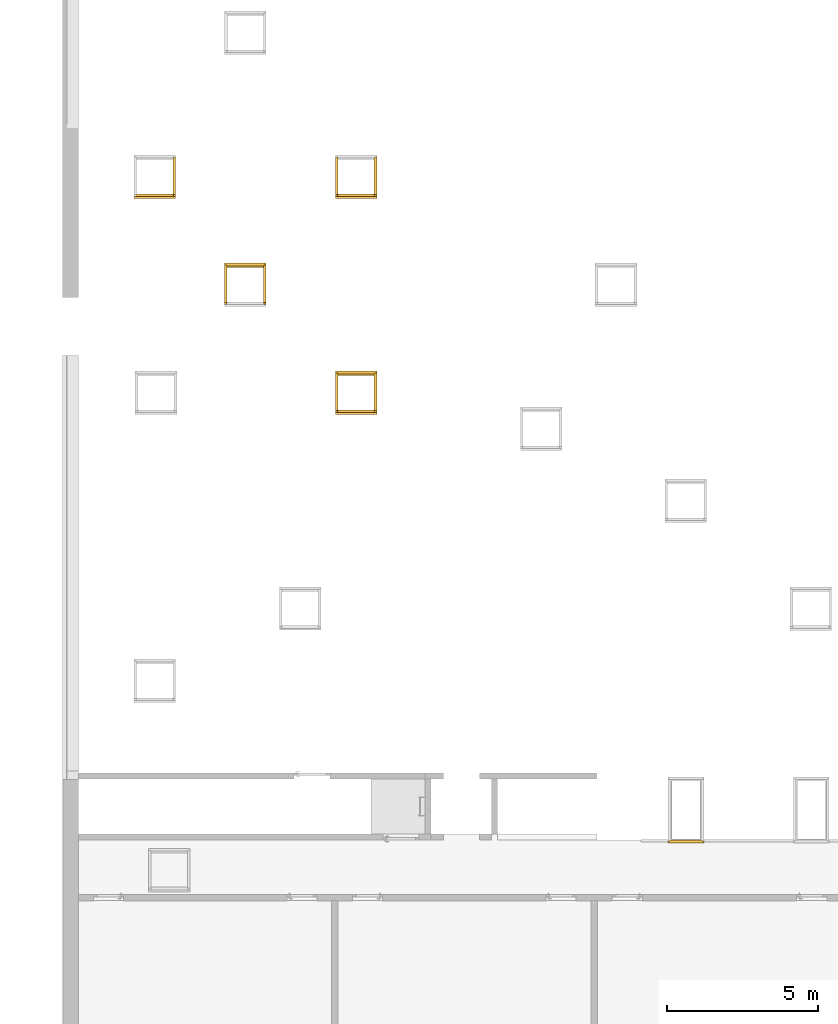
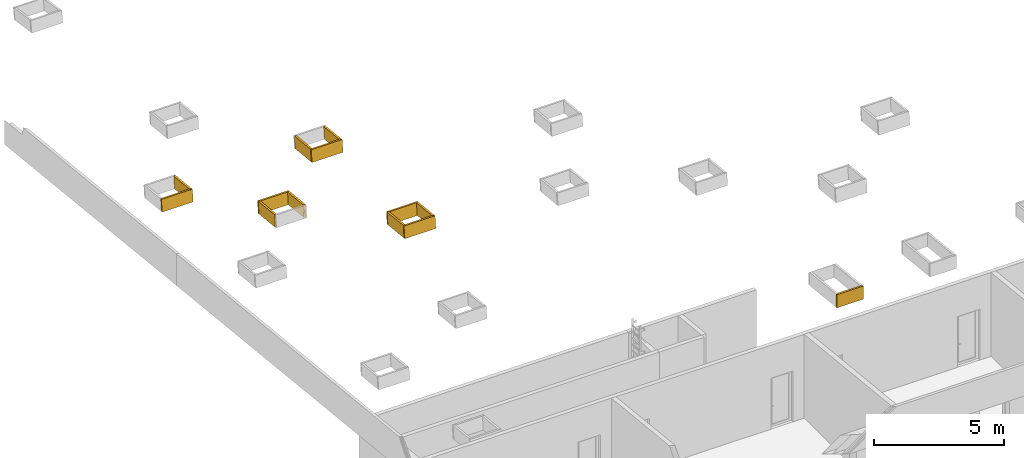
# One storey, part 13 of 23: 13 coverings.
"""IFC2X3 building model written with IfcOpenShell, lengths in millimetres."""

from ifc_helpers import new_model, entity, si_unit, converted_unit, derived_unit, money_unit, direction, frame, origin_with_axes, place, context, subcontext, project, spatial, faceted_brep, material, material_list, type_object, element, save


model = new_model("IFC2X3")

# Units and contexts
model_context = context("Model", 3, precision=0.01, world=origin_with_axes(), true_north=direction((0.0, 1.0)))
body_context = subcontext(model_context, "Body", "Model", "MODEL_VIEW")
ifc_project = project(units=[si_unit("LENGTHUNIT", "METRE", prefix="MILLI"), si_unit("AREAUNIT", "SQUARE_METRE"), si_unit("VOLUMEUNIT", "CUBIC_METRE"), converted_unit("PLANEANGLEUNIT", "DEGREE", entity("IfcPlaneAngleMeasure", 0.0174532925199), si_unit("PLANEANGLEUNIT", "RADIAN"), dimensions=[0, 0, 0, 0, 0, 0, 0]), si_unit("SOLIDANGLEUNIT", "STERADIAN"), money_unit("EUR"), converted_unit("TIMEUNIT", "Year", entity("IfcTimeMeasure", 31556926.0), si_unit("TIMEUNIT", "SECOND"), dimensions=[0, 0, 1, 0, 0, 0, 0]), si_unit("MASSUNIT", "GRAM", prefix="KILO"), si_unit("THERMODYNAMICTEMPERATUREUNIT", "DEGREE_CELSIUS"), si_unit("LUMINOUSINTENSITYUNIT", "LUMEN"), si_unit("ENERGYUNIT", "JOULE", prefix="MEGA"), derived_unit("THERMALCONDUCTANCEUNIT", [(si_unit("POWERUNIT", "WATT"), 1), (si_unit("LENGTHUNIT", "METRE"), -1), (si_unit("THERMODYNAMICTEMPERATUREUNIT", "KELVIN"), -1)]), derived_unit("SPECIFICHEATCAPACITYUNIT", [(si_unit("ENERGYUNIT", "JOULE"), 1), (si_unit("MASSUNIT", "GRAM", prefix="KILO"), -1), (si_unit("THERMODYNAMICTEMPERATUREUNIT", "KELVIN"), -1)]), derived_unit("MASSDENSITYUNIT", [(si_unit("MASSUNIT", "GRAM", prefix="KILO"), 1), (si_unit("VOLUMEUNIT", "CUBIC_METRE"), -1)])], contexts=[model_context])

# Site, building, storey
site_placement = place(None, origin_with_axes())
site = spatial("IfcSite", under=ifc_project, at=site_placement, Name="L.Koidula tn 11b", CompositionType="ELEMENT")
building_placement = place(site_placement, origin_with_axes())
building = spatial("IfcBuilding", under=site, at=building_placement, Name="Rakvere Riigigümnaasium", CompositionType="ELEMENT")
storey_placement = place(building_placement, frame((0.0, 0.0, 7440.0), z_axis=(0.0, 0.0, 1.0), x_axis=(1.0, 0.0, 0.0)))
storey = spatial("IfcBuildingStorey", under=building, at=storey_placement, Name="3.korrus +7,44", CompositionType="ELEMENT", Elevation=7440.0)

# Coverings
ifc_material_1 = material(Name="SKR-02_Kipsplaat")
ifc_material_2 = material(Name="mineraalvill+karkass")
ifc_material_list_1 = material_list([ifc_material_1, ifc_material_1, ifc_material_2])
covering_type = type_object("IfcCoveringType", Name="SA-2xkips 91", PredefinedType="NOTDEFINED")
covering_1_placement = place(storey_placement, frame((55149.7548015, 15090.4785302, 3113.51090333), z_axis=(0.0, 0.0, 1.0), x_axis=(1.0, 0.0, 0.0)))
element("IfcCovering", 1, at=covering_1_placement, inside=storey, type_object=covering_type, material=ifc_material_list_1, Name="Ava-pinnakate", PredefinedType="NOTDEFINED", context=body_context, shape_type="Brep", body=[
    faceted_brep([(-12.5000001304, 0.0, 624.674586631), (1012.5027187, 0.0, 624.674586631), (1012.5027187, 0.0, 0.0), (-12.5000001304, 0.0, 0.0), (1012.50092998, -12.5, 625.988389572), (-12.5018058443, -12.5, 625.988389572), (1012.50092998, -12.5, 1.1134172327), (1012.50244587, -1.90654265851, 0.0), (-12.5002755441, -1.90654265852, 0.0), (-12.5018058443, -12.5, 1.1134172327)], [[[0, 1, 2, 3]], [[4, 1, 0, 5]], [[1, 4, 6, 7, 2]], [[3, 2, 7, 8]], [[5, 0, 3, 8, 9]], [[4, 5, 9, 6]], [[6, 9, 8, 7]]]),
    faceted_brep([(-25.0018059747, -12.5, 625.988389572), (1025.0009301, -12.5, 625.988389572), (1025.0009301, -12.5, 1.1134172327), (-25.0018059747, -12.5, 1.1134172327), (1024.99979842, -20.4084827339, 626.819604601), (-25.0029484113, -20.408482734, 626.819604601), (0.0, -20.4084827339, 626.819604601), (0.0, -25.0, 627.302192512), (1000.00271857, -25.0, 627.302192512), (1000.00271857, -20.4084827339, 626.819604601), (1024.99914138, -25.0, 626.819604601), (1024.99914138, -25.0, 2.42722017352), (-25.0036116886, -25.0, 2.42722017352), (-25.0036116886, -25.0, 626.819604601), (0.0, -25.0, 626.819604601), (1000.00271857, -25.0, 626.819604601)], [[[0, 1, 2, 3]], [[4, 1, 0, 5, 6, 7, 8, 9]], [[1, 4, 10, 11, 2]], [[11, 12, 3, 2]], [[5, 0, 3, 12, 13]], [[6, 5, 13, 14]], [[7, 6, 14]], [[8, 7, 14, 13, 12, 11, 10, 15]], [[9, 8, 15]], [[4, 9, 15, 10]]]),
    faceted_brep([(0.0, -25.0, 627.302192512), (1000.00271857, -25.0, 627.302192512), (1000.00271857, -25.0, 626.819604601), (1090.99914421, -25.0, 626.819604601), (1090.99914421, -25.0, 2.42722017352), (-91.0036123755, -25.0, 2.42722017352), (-91.0036123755, -25.0, 626.819604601), (0.0, -25.0, 626.819604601), (1000.00271857, -88.6128973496, 633.988177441), (0.0, -88.6128973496, 633.988177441), (1000.00271857, -91.0, 633.988177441), (1000.00271857, -91.0, 626.819604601), (1090.98969976, -91.0, 626.819604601), (1090.98969976, -91.0, 9.36409970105), (-91.0131465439, -91.0, 9.36409970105), (-91.0131465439, -91.0, 626.819604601), (0.0, -91.0, 626.819604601), (0.0, -91.0, 633.988177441)], [[[0, 1, 2, 3, 4, 5, 6, 7]], [[8, 1, 0, 9]], [[1, 8, 10, 11, 2]], [[3, 2, 11, 12]], [[3, 12, 13, 4]], [[13, 14, 5, 4]], [[15, 6, 5, 14]], [[15, 16, 7, 6]], [[9, 0, 7, 16, 17]], [[8, 9, 17, 10]], [[16, 15, 14, 13, 12, 11, 10, 17]]]),
])
covering_2_placement = place(storey_placement, frame((45308.8698549, 30494.0144713, 1485.50385412), z_axis=(0.0, 0.0, 1.0), x_axis=(-1.0, 0.0, 0.0)))
element("IfcCovering", 2, at=covering_2_placement, inside=storey, type_object=covering_type, material=ifc_material_list_1, Name="Ava-pinnakate", PredefinedType="NOTDEFINED", context=body_context, shape_type="Brep", body=[
    faceted_brep([(1212.48952878, -72.5823971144, 570.990726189), (-12.5103865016, -72.5823971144, 570.990726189), (-12.501910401, -13.3494328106, 7.42671609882), (1212.4980854, -13.3494328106, 7.42671609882), (-12.5086075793, -60.1508734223, 572.29733198), (1212.4913246, -60.1508734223, 572.29733198), (-12.5001314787, -0.917909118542, 8.73332188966), (1212.49988122, -0.917909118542, 8.73332188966)], [[[0, 1, 2, 3]], [[4, 1, 0, 5]], [[1, 4, 6, 2]], [[7, 3, 2, 6]], [[5, 0, 3, 7]], [[4, 5, 7, 6]]]),
    faceted_brep([(1224.98773309, -85.0139208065, 569.684120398), (-25.012165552, -85.0139208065, 569.684120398), (-25.0036894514, -25.7809565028, 6.12011030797), (1224.99628971, -25.7809565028, 6.12011030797), (-25.0103866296, -72.5823971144, 570.990726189), (1224.98952891, -72.5823971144, 570.990726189), (-25.001910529, -13.3494328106, 7.42671609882), (1224.99808553, -13.3494328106, 7.42671609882)], [[[0, 1, 2, 3]], [[4, 1, 0, 5]], [[1, 4, 6, 2]], [[7, 3, 2, 6]], [[5, 0, 3, 7]], [[4, 5, 7, 6]]]),
    faceted_brep([(1290.97825183, -150.652365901, 562.785241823), (-91.0215589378, -150.652365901, 562.785241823), (-91.0130945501, -91.5012534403, 0.0), (1290.98679663, -91.5012534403, 0.0), (-91.0121662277, -85.0139208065, 569.684120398), (1290.98773377, -85.0139208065, 569.684120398), (-91.0036901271, -25.7809565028, 6.12011030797), (-91.012022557, -84.0099164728, 0.0), (1290.98787881, -84.0099164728, 0.0), (1290.9962904, -25.7809565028, 6.12011030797)], [[[0, 1, 2, 3]], [[4, 1, 0, 5]], [[1, 4, 6, 7, 2]], [[2, 7, 8, 3]], [[5, 0, 3, 8, 9]], [[4, 5, 9, 6]], [[9, 8, 7, 6]]]),
])
covering_3_placement = place(storey_placement, frame((44108.6975812, 29301.5494377, 1620.08417005), z_axis=(0.0, 0.0, 1.0), x_axis=(1.0, 0.0, 0.0)))
element("IfcCovering", 3, at=covering_3_placement, inside=storey, type_object=covering_type, material=ifc_material_list_1, Name="Ava-pinnakate", PredefinedType="NOTDEFINED", context=body_context, shape_type="Brep", body=[
    faceted_brep([(-12.4914497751, 59.1895772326, 563.151177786), (1212.51010477, 59.1895772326, 563.151177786), (1212.50163487, 0.0, 0.0), (-12.5000001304, 0.0, 0.0), (1212.50832584, 46.7580502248, 564.457783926), (-12.4932455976, 46.7580502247, 564.457783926), (1212.49984974, -12.4749140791, 0.893773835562), (1212.5010666, -3.97122406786, 0.0), (-12.500573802, -3.97122406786, 0.0), (-12.5018022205, -12.4749140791, 0.893773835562)], [[[0, 1, 2, 3]], [[4, 1, 0, 5]], [[1, 4, 6, 7, 2]], [[2, 7, 8, 3]], [[5, 0, 3, 8, 9]], [[4, 5, 9, 6]], [[9, 8, 7, 6]]]),
    faceted_brep([(-24.9932456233, 46.7580502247, 564.457783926), (1225.00832604, 46.7580502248, 564.457783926), (1224.99985041, -12.4749140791, 0.893773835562), (-25.0018010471, -12.4749140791, 0.893773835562), (1225.00654711, 34.3265265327, 565.764389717), (-24.9950414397, 34.3265265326, 565.764389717), (1224.99807149, -24.9064377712, 2.20037962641), (-25.0035968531, -24.9064377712, 2.20037962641)], [[[0, 1, 2, 3]], [[4, 1, 0, 5]], [[1, 4, 6, 2]], [[7, 3, 2, 6]], [[5, 0, 3, 7]], [[4, 5, 7, 6]]]),
    faceted_brep([(-90.9950422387, 34.3265265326, 565.764389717), (1291.00654703, 34.3265265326, 565.764389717), (1290.99807093, -24.9064377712, 2.20037962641), (-91.0035988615, -24.9064377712, 2.20037962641), (1290.99715432, -31.311919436, 572.663268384), (-91.0045241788, -31.311919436, 572.663268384), (1290.98867822, -90.5448828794, 9.09925820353), (-91.0130808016, -90.5448828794, 9.09925820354)], [[[0, 1, 2, 3]], [[4, 1, 0, 5]], [[1, 4, 6, 2]], [[7, 3, 2, 6]], [[5, 0, 3, 7]], [[4, 5, 7, 6]]]),
])
covering_4_placement = place(storey_placement, frame((44108.8698412, 30494.0144713, 1409.41589156), z_axis=(0.0, 0.0, 1.0), x_axis=(-0.000144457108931, -0.999999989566, 0.0)))
element("IfcCovering", 4, at=covering_4_placement, inside=storey, type_object=covering_type, material=ifc_material_list_1, Name="Ava-pinnakate", PredefinedType="NOTDEFINED", context=body_context, shape_type="Brep", body=[
    faceted_brep([(-60.1490683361, -12.5, 648.385294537), (-60.1508740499, -5.58742385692e-07, 648.385294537), (-0.91790912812, -8.52651282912e-09, 84.8212844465), (-0.916103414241, -12.5, 84.8212844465), (1133.27546816, -1.73905334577e-07, 773.819456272), (1133.27727388, -12.4999999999, 773.819456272), (1192.46504601, -1.1754579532e-06, 210.668278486), (1192.46504601, -1.1754579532e-06, 210.250886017), (1192.46684815, -12.4999999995, 210.250885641), (1192.46685173, -12.4999999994, 210.668278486)], [[[0, 1, 2, 3]], [[4, 1, 0, 5]], [[1, 4, 6, 7, 2]], [[8, 3, 2, 7]], [[5, 0, 3, 8, 9]], [[4, 5, 9, 6]], [[9, 8, 7, 6]]]),
    faceted_brep([(-72.5787864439, -25.0000006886, 647.078688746), (-72.5805921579, -12.5, 647.078688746), (-13.3476272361, -12.5, 83.5146786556), (-13.3458215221, -25.0000006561, 83.5146786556), (1145.70880101, -12.5, 775.126062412), (1145.71060673, -24.9999998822, 775.126062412), (1204.94176594, -12.5, 211.562052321), (1196.43807584, -12.5, 210.668278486), (1192.46504601, -12.5, 210.668278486), (1192.46504601, -12.5, 210.250696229), (1192.46504601, -24.9999985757, 210.250506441), (1192.46504601, -24.9999985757, 210.668278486), (1196.43988155, -24.9999985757, 210.668278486), (1204.94357165, -24.9999985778, 211.562052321)], [[[0, 1, 2, 3]], [[4, 1, 0, 5]], [[1, 4, 6, 7, 8, 9, 2]], [[10, 3, 2, 9]], [[5, 0, 3, 10, 11, 12, 13]], [[4, 5, 13, 6]], [[13, 12, 7, 6]], [[8, 7, 12, 11]], [[11, 10, 9, 8]]]),
    faceted_brep([(-85.0007760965, -91.0, 645.772082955), (-85.0103102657, -25.0000006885, 645.772082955), (-25.7773453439, -25.000000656, 82.2080728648), (-25.7678111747, -91.0, 82.2080728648), (1158.14213055, -24.9999998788, 776.432668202), (1158.15166472, -91.0, 776.432668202), (1217.37509547, -24.9999985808, 212.868658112), (1196.43988155, -24.9999985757, 210.668278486), (1192.46504601, -24.9999985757, 210.668278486), (1192.46504601, -24.9999985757, 210.250506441), (1192.46504601, -91.0, 210.249504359), (1192.46504601, -91.0, 210.668278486), (1196.44941572, -91.0, 210.668278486), (1217.38462964, -91.0, 212.868658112)], [[[0, 1, 2, 3]], [[4, 1, 0, 5]], [[1, 4, 6, 7, 8, 9, 2]], [[10, 3, 2, 9]], [[5, 0, 3, 10, 11, 12, 13]], [[4, 5, 13, 6]], [[13, 12, 7, 6]], [[8, 7, 12, 11]], [[11, 10, 9, 8]]]),
])
ifc_material_list_2 = material_list([ifc_material_2, ifc_material_1, ifc_material_1])
covering_5_placement = place(storey_placement, frame((45308.8698549, 30494.0144713, 1409.41589156), z_axis=(0.0, 0.0, 1.0), x_axis=(-0.000143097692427, -0.999999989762, 0.0)))
element("IfcCovering", 5, at=covering_5_placement, inside=storey, type_object=covering_type, material=ifc_material_list_2, Name="Ava-pinnakate", PredefinedType="NOTDEFINED", context=body_context, shape_type="Brep", body=[
    faceted_brep([(-85.0174991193, 25.0000001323, 645.772082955), (-85.0269435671, 91.0, 645.772082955), (-25.7939786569, 91.0, 82.2080728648), (-25.7845342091, 25.00000065, 82.2080728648), (1158.12549701, 90.9999993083, 776.432668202), (1158.13494145, 25.0000000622, 776.432668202), (1217.35846192, 90.9999993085, 212.868658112), (1196.423248, 90.9999989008, 210.668278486), (1192.46504578, 90.9999988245, 210.668278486), (1192.46504578, 90.9999988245, 210.252254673), (1192.46504578, 25.0000005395, 210.251262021), (1192.46504578, 25.0000005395, 210.668278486), (1196.43269245, 25.0000005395, 210.668278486), (1217.36790636, 25.0000005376, 212.868658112)], [[[0, 1, 2, 3]], [[4, 1, 0, 5]], [[1, 4, 6, 7, 8, 9, 2]], [[10, 3, 2, 9]], [[5, 0, 3, 10, 11, 12, 13]], [[4, 5, 13, 6]], [[13, 12, 7, 6]], [[8, 7, 12, 11]], [[11, 10, 9, 8]]]),
    faceted_brep([(-72.5841865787, 12.5, 647.078688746), (-72.5859752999, 25.0000001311, 647.078688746), (-13.3530103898, 25.0000006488, 83.5146786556), (-13.3512216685, 12.5, 83.5146786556), (1145.70341763, 25.000000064, 775.126062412), (1145.70520636, 12.5, 775.126062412), (1204.93638254, 25.0000005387, 211.562052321), (1196.43269245, 25.0000005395, 210.668278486), (1192.46504578, 25.0000005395, 210.668278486), (1192.46504578, 25.0000005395, 210.251262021), (1192.46504578, 12.5, 210.251074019), (1192.46504578, 12.5, 210.668278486), (1196.43448117, 12.5, 210.668278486), (1204.93817127, 12.5, 211.562052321)], [[[0, 1, 2, 3]], [[4, 1, 0, 5]], [[1, 4, 6, 7, 8, 9, 2]], [[10, 3, 2, 9]], [[5, 0, 3, 10, 11, 12, 13]], [[4, 5, 13, 6]], [[13, 12, 7, 6]], [[8, 7, 12, 11]], [[11, 10, 9, 8]]]),
    faceted_brep([(-60.1508740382, 0.0, 648.385294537), (-60.1524894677, 12.5, 648.38531275), (-0.917952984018, 12.5, 84.8214678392), (-0.917909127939, 0.0, 84.8212844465), (1133.2738788, 12.5, 773.819477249), (1133.27546794, 0.0, 773.819456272), (1192.46504578, 12.5, 210.668278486), (1192.46504578, 12.5, 210.251074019), (1192.46504578, 0.0, 210.250886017), (1192.46504578, 0.0, 210.668278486)], [[[0, 1, 2, 3]], [[4, 1, 0, 5]], [[1, 4, 6, 7, 2]], [[8, 3, 2, 7]], [[5, 0, 3, 8, 9]], [[4, 5, 9, 6]], [[9, 8, 7, 6]]]),
])
covering_6_placement = place(storey_placement, frame((41634.7027089, 34074.3083874, 1109.25470088), z_axis=(0.0, 0.0, 1.0), x_axis=(-1.0, 0.0, 0.0)))
element("IfcCovering", 6, at=covering_6_placement, inside=storey, type_object=covering_type, material=ifc_material_list_1, Name="Ava-pinnakate", PredefinedType="NOTDEFINED", context=body_context, shape_type="Brep", body=[
    faceted_brep([(1212.4895296, -72.5766898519, 570.936425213), (-12.5103856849, -72.5766898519, 570.936425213), (-12.5019095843, -13.3437255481, 7.37241512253), (1212.49808622, -13.3437255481, 7.37241512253), (-12.5086067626, -60.1451661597, 572.243031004), (1212.49132542, -60.1451661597, 572.243031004), (-12.500130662, -0.912201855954, 8.67902091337), (1212.49988205, -0.912201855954, 8.67902091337)], [[[0, 1, 2, 3]], [[4, 1, 0, 5]], [[1, 4, 6, 2]], [[7, 3, 2, 6]], [[5, 0, 3, 7]], [[4, 5, 7, 6]]]),
    faceted_brep([(1224.98773391, -85.008213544, 569.629819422), (-25.0121647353, -85.008213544, 569.629819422), (-25.0036886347, -25.7752492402, 6.06580933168), (1224.99629053, -25.7752492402, 6.06580933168), (-25.0103858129, -72.5766898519, 570.936425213), (1224.98952973, -72.5766898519, 570.936425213), (-25.0019097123, -13.3437255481, 7.37241512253), (1224.99808635, -13.3437255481, 7.37241512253)], [[[0, 1, 2, 3]], [[4, 1, 0, 5]], [[1, 4, 6, 2]], [[7, 3, 2, 6]], [[5, 0, 3, 7]], [[4, 5, 7, 6]]]),
    faceted_brep([(1290.97825266, -150.646658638, 562.730940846), (-91.0215581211, -150.646658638, 562.730940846), (-91.0130945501, -91.5012534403, 0.0), (1290.98679663, -91.5012534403, 0.0), (-91.012165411, -85.008213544, 569.629819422), (1290.9877346, -85.008213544, 569.629819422), (-91.0036893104, -25.7752492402, 6.06580933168), (-91.0119478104, -83.4875699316, 0.0), (1290.98795427, -83.4875699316, 0.0), (1290.99629122, -25.7752492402, 6.06580933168)], [[[0, 1, 2, 3]], [[4, 1, 0, 5]], [[1, 4, 6, 7, 2]], [[2, 7, 8, 3]], [[5, 0, 3, 8, 9]], [[4, 5, 9, 6]], [[9, 8, 7, 6]]]),
])
covering_7_placement = place(storey_placement, frame((40434.7026952, 34074.3083874, 1033.16673832), z_axis=(0.0, 0.0, 1.0), x_axis=(-0.000144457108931, -0.999999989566, 0.0)))
element("IfcCovering", 7, at=covering_7_placement, inside=storey, type_object=covering_type, material=ifc_material_list_1, Name="Ava-pinnakate", PredefinedType="NOTDEFINED", context=body_context, shape_type="Brep", body=[
    faceted_brep([(-60.1433610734, -12.5, 648.33099356), (-60.1451667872, -5.58685542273e-07, 648.33099356), (-0.912201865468, -8.46966941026e-09, 84.7669834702), (-0.910396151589, -12.5, 84.7669834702), (1133.28117543, -1.74011915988e-07, 773.765155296), (1133.28298114, -12.4999999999, 773.765155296), (1192.46504601, -1.1754579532e-06, 210.668278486), (1192.46504601, -1.1754579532e-06, 210.195985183), (1192.46684768, -12.4999999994, 210.195984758), (1192.46685173, -12.4999999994, 210.668278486)], [[[0, 1, 2, 3]], [[4, 1, 0, 5]], [[1, 4, 6, 7, 2]], [[8, 3, 2, 7]], [[5, 0, 3, 8, 9]], [[4, 5, 9, 6]], [[9, 8, 7, 6]]]),
    faceted_brep([(-72.5730791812, -25.0000006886, 647.02438777), (-72.5748848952, -12.5, 647.02438777), (-13.3419199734, -12.5, 83.4603776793), (-13.3401142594, -25.0000006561, 83.4603776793), (1145.71450828, -12.5, 775.071761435), (1145.71631399, -24.9999998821, 775.071761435), (1204.9474732, -12.5, 211.507751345), (1196.96042238, -12.5, 210.668278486), (1192.46504601, -12.5, 210.668278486), (1192.46504601, -12.5, 210.195795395), (1192.46504601, -24.9999985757, 210.195605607), (1192.46504601, -24.9999985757, 210.668278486), (1196.9622281, -24.9999985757, 210.668278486), (1204.94927891, -24.9999985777, 211.507751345)], [[[0, 1, 2, 3]], [[4, 1, 0, 5]], [[1, 4, 6, 7, 8, 9, 2]], [[10, 3, 2, 9]], [[5, 0, 3, 10, 11, 12, 13]], [[4, 5, 13, 6]], [[13, 12, 7, 6]], [[8, 7, 12, 11]], [[11, 10, 9, 8]]]),
    faceted_brep([(-84.9950688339, -91.0, 645.717781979), (-85.0046030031, -25.0000006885, 645.717781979), (-25.7716380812, -25.000000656, 82.1537718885), (-25.762103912, -91.0, 82.1537718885), (1158.14783781, -24.9999998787, 776.378367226), (1158.15737198, -91.0, 776.378367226), (1217.38080273, -24.9999985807, 212.814357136), (1196.9622281, -24.9999985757, 210.668278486), (1192.46504601, -24.9999985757, 210.668278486), (1192.46504601, -24.9999985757, 210.195605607), (1192.46504601, -91.0, 210.194603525), (1192.46504601, -91.0, 210.668278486), (1196.97176227, -91.0, 210.668278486), (1217.3903369, -91.0, 212.814357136)], [[[0, 1, 2, 3]], [[4, 1, 0, 5]], [[1, 4, 6, 7, 8, 9, 2]], [[10, 3, 2, 9]], [[5, 0, 3, 10, 11, 12, 13]], [[4, 5, 13, 6]], [[13, 12, 7, 6]], [[8, 7, 12, 11]], [[11, 10, 9, 8]]]),
])
covering_8_placement = place(storey_placement, frame((41634.7027089, 34074.3083874, 1033.16673832), z_axis=(0.0, 0.0, 1.0), x_axis=(-0.000143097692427, -0.999999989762, 0.0)))
element("IfcCovering", 8, at=covering_8_placement, inside=storey, type_object=covering_type, material=ifc_material_list_2, Name="Ava-pinnakate", PredefinedType="NOTDEFINED", context=body_context, shape_type="Brep", body=[
    faceted_brep([(-85.0117918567, 25.0000001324, 645.717781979), (-85.0212363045, 91.0, 645.717781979), (-25.7882713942, 91.0, 82.1537718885), (-25.7788269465, 25.0000006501, 82.1537718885), (1158.13120427, 90.9999993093, 776.378367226), (1158.14064872, 25.0000000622, 776.378367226), (1217.36416918, 90.9999993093, 212.814357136), (1196.94559455, 90.999998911, 210.668278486), (1192.46504578, 90.9999988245, 210.668278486), (1192.46504578, 90.9999988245, 210.197353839), (1192.46504578, 25.0000005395, 210.196361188), (1192.46504578, 25.0000005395, 210.668278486), (1196.95503899, 25.0000005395, 210.668278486), (1217.37361363, 25.0000005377, 212.814357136)], [[[0, 1, 2, 3]], [[4, 1, 0, 5]], [[1, 4, 6, 7, 8, 9, 2]], [[10, 3, 2, 9]], [[5, 0, 3, 10, 11, 12, 13]], [[4, 5, 13, 6]], [[13, 12, 7, 6]], [[8, 7, 12, 11]], [[11, 10, 9, 8]]]),
    faceted_brep([(-72.5784793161, 12.5, 647.02438777), (-72.5802680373, 25.0000001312, 647.02438777), (-13.3473031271, 25.0000006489, 83.4603776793), (-13.3455144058, 12.5, 83.4603776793), (1145.7091249, 25.000000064, 775.071761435), (1145.71091362, 12.5, 775.071761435), (1204.94208981, 25.0000005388, 211.507751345), (1196.95503899, 25.0000005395, 210.668278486), (1192.46504578, 25.0000005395, 210.668278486), (1192.46504578, 25.0000005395, 210.196361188), (1192.46504578, 12.5, 210.196173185), (1192.46504578, 12.5, 210.668278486), (1196.95682771, 12.5, 210.668278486), (1204.94387853, 12.5, 211.507751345)], [[[0, 1, 2, 3]], [[4, 1, 0, 5]], [[1, 4, 6, 7, 8, 9, 2]], [[10, 3, 2, 9]], [[5, 0, 3, 10, 11, 12, 13]], [[4, 5, 13, 6]], [[13, 12, 7, 6]], [[8, 7, 12, 11]], [[11, 10, 9, 8]]]),
    faceted_brep([(-60.1451667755, 0.0, 648.33099356), (-60.1467820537, 12.5, 648.33101179), (-0.912245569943, 12.5, 84.7671668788), (-0.91220186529, 0.0, 84.7669834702), (1133.27958621, 12.5, 773.765176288), (1133.2811752, 0.0, 773.765155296), (1192.46504578, 12.5, 210.668278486), (1192.46504578, 12.5, 210.196173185), (1192.46504578, 0.0, 210.195985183), (1192.46504578, 0.0, 210.668278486)], [[[0, 1, 2, 3]], [[4, 1, 0, 5]], [[1, 4, 6, 7, 2]], [[8, 3, 2, 7]], [[5, 0, 3, 8, 9]], [[4, 5, 9, 6]], [[9, 8, 7, 6]]]),
])
covering_9_placement = place(storey_placement, frame((44108.7987561, 36461.9580349, 867.494908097), z_axis=(0.0, 0.0, 1.0), x_axis=(1.0, 0.0, 0.0)))
element("IfcCovering", 9, at=covering_9_placement, inside=storey, type_object=covering_type, material=ifc_material_list_1, Name="Ava-pinnakate", PredefinedType="NOTDEFINED", context=body_context, shape_type="Brep", body=[
    faceted_brep([(-12.4914497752, 59.1895764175, 563.151170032), (1212.51010477, 59.1895764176, 563.151170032), (1212.50163487, 0.0, 0.0), (-12.5000001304, 0.0, 0.0), (1212.50832584, 46.7580494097, 564.457776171), (-12.4932455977, 46.7580494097, 564.457776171), (1212.49984974, -12.4749148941, 0.89376608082), (1212.50106659, -3.97129866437, 0.0), (-12.5005738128, -3.97129866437, 0.0), (-12.5018022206, -12.4749148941, 0.89376608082)], [[[0, 1, 2, 3]], [[4, 1, 0, 5]], [[1, 4, 6, 7, 2]], [[2, 7, 8, 3]], [[5, 0, 3, 8, 9]], [[4, 5, 9, 6]], [[9, 8, 7, 6]]]),
    faceted_brep([(-24.9932456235, 46.7580494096, 564.457776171), (1225.00832604, 46.7580494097, 564.457776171), (1224.99985041, -12.4749148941, 0.89376608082), (-25.0018010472, -12.4749148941, 0.89376608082), (1225.00654711, 34.3265257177, 565.764381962), (-24.9950414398, 34.3265257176, 565.764381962), (1224.99807149, -24.9064385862, 2.20037187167), (-25.0035968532, -24.9064385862, 2.20037187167)], [[[0, 1, 2, 3]], [[4, 1, 0, 5]], [[1, 4, 6, 2]], [[7, 3, 2, 6]], [[5, 0, 3, 7]], [[4, 5, 7, 6]]]),
    faceted_brep([(-90.9950422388, 34.3265257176, 565.764381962), (1291.00654702, 34.3265257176, 565.764381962), (1290.99807092, -24.9064385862, 2.20037187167), (-91.0035988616, -24.9064385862, 2.20037187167), (1290.99715431, -31.3119202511, 572.663260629), (-91.0045241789, -31.3119202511, 572.663260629), (1290.98867822, -90.5448836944, 9.09925044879), (-91.0130808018, -90.5448836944, 9.09925044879)], [[[0, 1, 2, 3]], [[4, 1, 0, 5]], [[1, 4, 6, 2]], [[7, 3, 2, 6]], [[5, 0, 3, 7]], [[4, 5, 7, 6]]]),
])
covering_10_placement = place(storey_placement, frame((44108.9710162, 37654.4230684, 656.826629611), z_axis=(0.0, 0.0, 1.0), x_axis=(-0.000144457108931, -0.999999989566, 0.0)))
element("IfcCovering", 10, at=covering_10_placement, inside=storey, type_object=covering_type, material=ifc_material_list_1, Name="Ava-pinnakate", PredefinedType="NOTDEFINED", context=body_context, shape_type="Brep", body=[
    faceted_brep([(-60.149067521, -12.5, 648.385286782), (-60.1508732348, -5.5874949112e-07, 648.385286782), (-0.917908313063, -8.53361825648e-09, 84.8212766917), (-0.916102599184, -12.5, 84.8212766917), (1133.27546898, -1.73919545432e-07, 773.819448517), (1133.27727469, -12.4999999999, 773.819448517), (1192.46504601, -1.1754579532e-06, 210.668278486), (1192.46504601, -1.1754579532e-06, 210.250878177), (1192.46684815, -12.4999999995, 210.250877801), (1192.46685173, -12.4999999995, 210.668278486)], [[[0, 1, 2, 3]], [[4, 1, 0, 5]], [[1, 4, 6, 7, 2]], [[8, 3, 2, 7]], [[5, 0, 3, 8, 9]], [[4, 5, 9, 6]], [[9, 8, 7, 6]]]),
    faceted_brep([(-72.5787856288, -25.0000006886, 647.078680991), (-72.5805913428, -12.5, 647.078680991), (-13.347626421, -12.5, 83.5146709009), (-13.345820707, -25.0000006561, 83.5146709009), (1145.70880183, -12.5, 775.126054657), (1145.71060754, -24.9999998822, 775.126054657), (1204.94176675, -12.5, 211.562044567), (1196.43815043, -12.5, 210.668278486), (1192.46504601, -12.5, 210.668278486), (1192.46504601, -12.5, 210.250688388), (1192.46504601, -24.9999985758, 210.2504986), (1192.46504601, -24.9999985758, 210.668278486), (1196.43995615, -24.9999985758, 210.668278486), (1204.94357247, -24.9999985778, 211.562044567)], [[[0, 1, 2, 3]], [[4, 1, 0, 5]], [[1, 4, 6, 7, 8, 9, 2]], [[10, 3, 2, 9]], [[5, 0, 3, 10, 11, 12, 13]], [[4, 5, 13, 6]], [[13, 12, 7, 6]], [[8, 7, 12, 11]], [[11, 10, 9, 8]]]),
    faceted_brep([(-85.0007752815, -91.0, 645.7720752), (-85.0103094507, -25.0000006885, 645.7720752), (-25.7773445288, -25.000000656, 82.20806511), (-25.7678103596, -91.0, 82.20806511), (1158.14213137, -24.9999998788, 776.432660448), (1158.15166553, -91.0, 776.432660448), (1217.37509629, -24.9999985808, 212.868650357), (1196.43995615, -24.9999985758, 210.668278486), (1192.46504601, -24.9999985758, 210.668278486), (1192.46504601, -24.9999985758, 210.2504986), (1192.46504601, -91.0, 210.249496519), (1192.46504601, -91.0, 210.668278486), (1196.44949032, -91.0, 210.668278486), (1217.38463046, -91.0, 212.868650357)], [[[0, 1, 2, 3]], [[4, 1, 0, 5]], [[1, 4, 6, 7, 8, 9, 2]], [[10, 3, 2, 9]], [[5, 0, 3, 10, 11, 12, 13]], [[4, 5, 13, 6]], [[13, 12, 7, 6]], [[8, 7, 12, 11]], [[11, 10, 9, 8]]]),
])
covering_11_placement = place(storey_placement, frame((45308.9710298, 37654.4230684, 656.826629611), z_axis=(0.0, 0.0, 1.0), x_axis=(-0.000143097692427, -0.999999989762, 0.0)))
element("IfcCovering", 11, at=covering_11_placement, inside=storey, type_object=covering_type, material=ifc_material_list_2, Name="Ava-pinnakate", PredefinedType="NOTDEFINED", context=body_context, shape_type="Brep", body=[
    faceted_brep([(-85.0174983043, 25.0000001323, 645.7720752), (-85.026942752, 91.0, 645.7720752), (-25.7939778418, 91.0, 82.20806511), (-25.7845333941, 25.00000065, 82.20806511), (1158.12549782, 90.9999992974, 776.432660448), (1158.13494227, 25.0000000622, 776.432660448), (1217.35846273, 90.9999992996, 212.868650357), (1196.4233226, 90.9999988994, 210.668278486), (1192.46504578, 90.9999988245, 210.668278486), (1192.46504578, 90.9999988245, 210.252246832), (1192.46504578, 25.0000005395, 210.251254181), (1192.46504578, 25.0000005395, 210.668278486), (1196.43276704, 25.0000005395, 210.668278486), (1217.36790718, 25.0000005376, 212.868650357)], [[[0, 1, 2, 3]], [[4, 1, 0, 5]], [[1, 4, 6, 7, 8, 9, 2]], [[10, 3, 2, 9]], [[5, 0, 3, 10, 11, 12, 13]], [[4, 5, 13, 6]], [[13, 12, 7, 6]], [[8, 7, 12, 11]], [[11, 10, 9, 8]]]),
    faceted_brep([(-72.5841857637, 12.5, 647.078680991), (-72.5859744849, 25.0000001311, 647.078680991), (-13.3530095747, 25.0000006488, 83.5146709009), (-13.3512208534, 12.5, 83.5146709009), (1145.70341845, 25.000000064, 775.126054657), (1145.70520717, 12.5, 775.126054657), (1204.93638336, 25.0000005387, 211.562044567), (1196.43276704, 25.0000005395, 210.668278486), (1192.46504578, 25.0000005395, 210.668278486), (1192.46504578, 25.0000005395, 210.251254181), (1192.46504578, 12.5, 210.251066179), (1192.46504578, 12.5, 210.668278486), (1196.43455576, 12.5, 210.668278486), (1204.93817208, 12.5, 211.562044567)], [[[0, 1, 2, 3]], [[4, 1, 0, 5]], [[1, 4, 6, 7, 8, 9, 2]], [[10, 3, 2, 9]], [[5, 0, 3, 10, 11, 12, 13]], [[4, 5, 13, 6]], [[13, 12, 7, 6]], [[8, 7, 12, 11]], [[11, 10, 9, 8]]]),
    faceted_brep([(-60.1508732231, 0.0, 648.385286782), (-60.1524886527, 12.5, 648.385304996), (-0.917952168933, 12.5, 84.8214600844), (-0.917908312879, 0.0, 84.8212766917), (1133.27387961, 12.5, 773.819469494), (1133.27546876, 0.0, 773.819448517), (1192.46504578, 12.5, 210.668278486), (1192.46504578, 12.5, 210.251066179), (1192.46504578, 0.0, 210.250878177), (1192.46504578, 0.0, 210.668278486)], [[[0, 1, 2, 3]], [[4, 1, 0, 5]], [[1, 4, 6, 7, 2]], [[8, 3, 2, 7]], [[5, 0, 3, 8, 9]], [[4, 5, 9, 6]], [[9, 8, 7, 6]]]),
])
covering_12_placement = place(storey_placement, frame((37432.8072752, 36461.8587077, 867.606245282), z_axis=(0.0, 0.0, 1.0), x_axis=(1.0, 0.0, 0.0)))
element("IfcCovering", 12, at=covering_12_placement, inside=storey, type_object=covering_type, material=ifc_material_list_1, Name="Ava-pinnakate", PredefinedType="NOTDEFINED", context=body_context, shape_type="Brep", body=[
    faceted_brep([(-12.4914512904, 59.1790875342, 563.051374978), (1212.51010327, 59.1790875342, 563.051374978), (1212.50163487, 0.0, 0.0), (-12.5000001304, 0.0, 0.0), (1212.50832434, 46.747560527, 564.357981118), (-12.4932471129, 46.7475605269, 564.357981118), (1212.49984824, -12.4854037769, 0.793971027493), (1212.50092922, -4.93127405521, 0.0), (-12.500712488, -4.93127405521, 0.0), (-12.5018037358, -12.4854037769, 0.793971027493)], [[[0, 1, 2, 3]], [[4, 1, 0, 5]], [[1, 4, 6, 7, 2]], [[2, 7, 8, 3]], [[5, 0, 3, 8, 9]], [[4, 5, 9, 6]], [[9, 8, 7, 6]]]),
    faceted_brep([(-24.9932471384, 46.7475605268, 564.357981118), (1225.00832453, 46.747560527, 564.357981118), (1224.99984891, -12.4854037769, 0.793971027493), (-25.0018025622, -12.4854037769, 0.793971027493), (1225.00654561, 34.3160368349, 565.664586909), (-24.9950429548, 34.3160368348, 565.664586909), (1224.99806998, -24.916927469, 2.10057681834), (-25.0035983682, -24.916927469, 2.10057681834)], [[[0, 1, 2, 3]], [[4, 1, 0, 5]], [[1, 4, 6, 2]], [[7, 3, 2, 6]], [[5, 0, 3, 7]], [[4, 5, 7, 6]]]),
    faceted_brep([(-90.995043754, 34.3160368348, 565.664586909), (1291.00654552, 34.3160368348, 565.664586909), (1290.99806942, -24.916927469, 2.10057681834), (-91.0036003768, -24.916927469, 2.10057681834), (1290.99715281, -31.3224091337, 572.563465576), (-91.0045256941, -31.3224091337, 572.563465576), (1290.98867671, -90.555372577, 8.99945539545), (-91.0130823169, -90.555372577, 8.99945539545)], [[[0, 1, 2, 3]], [[4, 1, 0, 5]], [[1, 4, 6, 2]], [[7, 3, 2, 6]], [[5, 0, 3, 7]], [[4, 5, 7, 6]]]),
])
covering_13_placement = place(storey_placement, frame((38632.9795489, 37654.3237413, 656.937966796), z_axis=(0.0, 0.0, 1.0), x_axis=(-0.000143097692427, -0.999999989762, 0.0)))
element("IfcCovering", 13, at=covering_13_placement, inside=storey, type_object=covering_type, material=ifc_material_list_2, Name="Ava-pinnakate", PredefinedType="NOTDEFINED", context=body_context, shape_type="Brep", body=[
    faceted_brep([(-85.0070094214, 25.0000001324, 645.672280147), (-85.0164538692, 91.0, 645.672280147), (-25.7834889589, 91.0, 82.1082700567), (-25.7740445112, 25.0000006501, 82.1082700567), (1158.1359867, 90.9999992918, 776.332865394), (1158.14543115, 25.0000000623, 776.332865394), (1217.36895161, 90.999999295, 212.768855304), (1197.383298, 90.9999989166, 210.668278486), (1192.46504578, 90.9999988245, 210.668278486), (1192.46504578, 90.9999988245, 210.151349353), (1192.46504578, 25.0000005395, 210.150356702), (1192.46504578, 25.0000005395, 210.668278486), (1197.39274244, 25.0000005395, 210.668278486), (1217.37839606, 25.0000005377, 212.768855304)], [[[0, 1, 2, 3]], [[4, 1, 0, 5]], [[1, 4, 6, 7, 8, 9, 2]], [[10, 3, 2, 9]], [[5, 0, 3, 10, 11, 12, 13]], [[4, 5, 13, 6]], [[13, 12, 7, 6]], [[8, 7, 12, 11]], [[11, 10, 9, 8]]]),
    faceted_brep([(-72.5736968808, 12.5, 646.978885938), (-72.575485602, 25.0000001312, 646.978885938), (-13.3425206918, 25.0000006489, 83.4148758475), (-13.3407319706, 12.5, 83.4148758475), (1145.71390733, 25.000000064, 775.026259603), (1145.71569605, 12.5, 775.026259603), (1204.94687224, 25.0000005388, 211.462249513), (1197.39274244, 25.0000005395, 210.668278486), (1192.46504578, 25.0000005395, 210.668278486), (1192.46504578, 25.0000005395, 210.150356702), (1192.46504578, 12.5, 210.150168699), (1192.46504578, 12.5, 210.668278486), (1197.39453117, 12.5, 210.668278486), (1204.94866096, 12.5, 211.462249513)], [[[0, 1, 2, 3]], [[4, 1, 0, 5]], [[1, 4, 6, 7, 8, 9, 2]], [[10, 3, 2, 9]], [[5, 0, 3, 10, 11, 12, 13]], [[4, 5, 13, 6]], [[13, 12, 7, 6]], [[8, 7, 12, 11]], [[11, 10, 9, 8]]]),
    faceted_brep([(-60.1403843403, 0.0, 648.285491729), (-60.1419994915, 12.5, 648.285509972), (-0.907463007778, 12.5, 84.7216650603), (-0.907419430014, 0.0, 84.7214816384), (1133.28436878, 12.5, 773.71967447), (1133.28595764, 0.0, 773.719653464), (1192.46504578, 12.5, 210.668278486), (1192.46504578, 12.5, 210.150168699), (1192.46504578, 0.0, 210.149980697), (1192.46504578, 0.0, 210.668278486)], [[[0, 1, 2, 3]], [[4, 1, 0, 5]], [[1, 4, 6, 7, 2]], [[8, 3, 2, 7]], [[5, 0, 3, 8, 9]], [[4, 5, 9, 6]], [[9, 8, 7, 6]]]),
])

save(model, "model.ifc")
